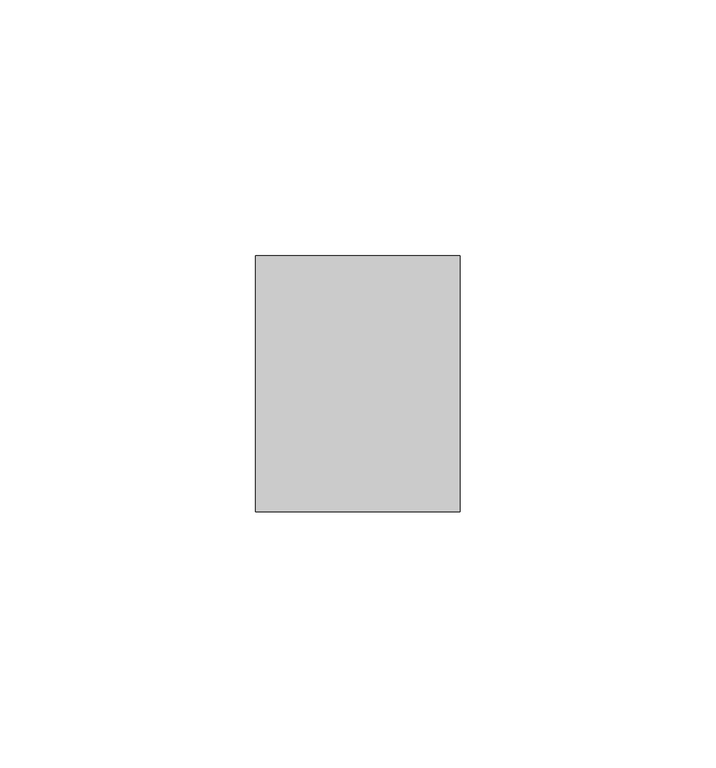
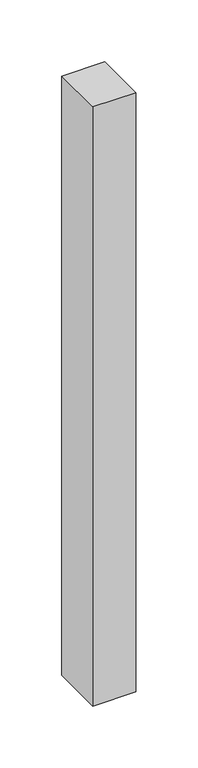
"""IFC4 building model written with IfcOpenShell, lengths in millimetres: member geometry, Прямоугольный импост : 40х50."""

import ifcopenshell
import ifcopenshell.guid

model = None  # the IFC model being written
_history = None  # IfcOwnerHistory: only IFC2X3 demands one
_inside = {}  # id of a spatial element -> (the spatial element, [elements in it])
_under = {}  # id of a project, library or spatial element -> (it, [spatial elements below it])
_declared = {}  # id of a project -> (the project, [libraries it declares])
_typed = {}  # id of a type object -> (the type object, [elements of that type])
_made_of = {}  # id of a material, layer set ... -> (it, [elements and type objects made of it])


def new_model(schema):
    """Start an empty IFC model of exactly this schema.

    Asked for "IFC4X3", IfcOpenShell would pick the latest addendum, in which some entities
    have other attributes; the version numbers below select the first issue.
    IFC2X3 requires an IfcOwnerHistory on every rooted entity: one is made here for all.
    """
    global model, _history
    if schema == "IFC4X3":
        model = ifcopenshell.file(schema_version=(4, 3, 0, 0))
    else:
        model = ifcopenshell.file(schema=schema)
    _inside.clear()
    _under.clear()
    _declared.clear()
    _typed.clear()
    _made_of.clear()
    _history = None
    if model.schema == "IFC2X3":
        org = make("IfcOrganization", Name="unknown")
        user = make(
            "IfcPersonAndOrganization",
            ThePerson=make("IfcPerson", FamilyName="unknown"),
            TheOrganization=org,
        )
        app = make(
            "IfcApplication",
            ApplicationDeveloper=org,
            Version="unknown",
            ApplicationFullName="unknown",
            ApplicationIdentifier="unknown",
        )
        _history = make(
            "IfcOwnerHistory",
            OwningUser=user,
            OwningApplication=app,
            ChangeAction="ADDED",
            CreationDate=0,
        )
    return model


def make(cls, **values):
    """One entity of the class cls with the attributes given. An attribute that is None is left unset."""
    return model.create_entity(
        cls, **{name: value for name, value in values.items() if value is not None}
    )


def rooted(cls, **values):
    """An entity with a GlobalId (a new one), such as an element, a storey or a relation."""
    return make(cls, GlobalId=ifcopenshell.guid.new(), OwnerHistory=_history, **values)


def si_unit(unit_type, name, prefix=None):
    """IfcSIUnit, for example si_unit("LENGTHUNIT", "METRE", prefix="MILLI")."""
    return make("IfcSIUnit", UnitType=unit_type, Prefix=prefix, Name=name)


def assignment(units):
    """IfcUnitAssignment: the units of a project."""
    return None if units is None else make("IfcUnitAssignment", Units=units)


def point(xyz):
    """IfcCartesianPoint."""
    return None if xyz is None else make("IfcCartesianPoint", Coordinates=xyz)


def direction(xyz):
    """IfcDirection."""
    return None if xyz is None else make("IfcDirection", DirectionRatios=xyz)


def frame(location, z_axis=None, x_axis=None):
    """IfcAxis2Placement3D, a coordinate frame: its origin and axes. An axis left out is left unset."""
    return make(
        "IfcAxis2Placement3D",
        Location=point(location),
        Axis=direction(z_axis),
        RefDirection=direction(x_axis),
    )


def origin():
    """The frame at (0, 0, 0) with its axes left unset."""
    return frame((0.0, 0.0, 0.0))


def place(relative_to, where):
    """IfcLocalPlacement: puts the frame where relative to a parent placement (None: the world)."""
    return make(
        "IfcLocalPlacement", PlacementRelTo=relative_to, RelativePlacement=where
    )


def context(
    kind, dimensions, precision=None, world=None, true_north=None, identifier=None
):
    """IfcGeometricRepresentationContext, for example the 3D "Model" context."""
    return make(
        "IfcGeometricRepresentationContext",
        ContextIdentifier=identifier,
        ContextType=kind,
        CoordinateSpaceDimension=dimensions,
        Precision=precision,
        WorldCoordinateSystem=world,
        TrueNorth=true_north,
    )


def project(units=None, contexts=None):
    """IfcProject with its units and contexts."""
    return rooted(
        "IfcProject",
        Name="project",
        RepresentationContexts=contexts,
        UnitsInContext=assignment(units),
    )


def spatial(cls, under=None, at=None, **own):
    """A site, building, storey or space (cls), placed at a placement, below another one or the project."""
    s = rooted(cls, ObjectPlacement=at, **own)
    if under is not None:
        _under.setdefault(under.id(), (under, []))[1].append(s)
    return s


def polyline(points):
    """IfcPolyline through the points."""
    return make("IfcPolyline", Points=[point(p) for p in points])


def outline(outer, holes=None, kind="AREA"):
    """IfcArbitraryClosedProfileDef: a profile drawn as a closed curve; with holes, ...WithVoids."""
    if holes is None:
        return make("IfcArbitraryClosedProfileDef", ProfileType=kind, OuterCurve=outer)
    return make(
        "IfcArbitraryProfileDefWithVoids",
        ProfileType=kind,
        OuterCurve=outer,
        InnerCurves=holes,
    )


def extrude(swept, where, along, depth):
    """IfcExtrudedAreaSolid: the profile swept, set in the frame where, extruded along a direction by depth."""
    return make(
        "IfcExtrudedAreaSolid",
        SweptArea=swept,
        Position=where,
        ExtrudedDirection=direction(along),
        Depth=depth,
    )


def shape(context_of_items, identifier, shape_type, items):
    """IfcShapeRepresentation: the items that make up one representation, for example the "Body"."""
    return make(
        "IfcShapeRepresentation",
        ContextOfItems=context_of_items,
        RepresentationIdentifier=identifier,
        RepresentationType=shape_type,
        Items=items,
    )


def source(mapping_origin, context_of_items, identifier, shape_type, items):
    """IfcRepresentationMap: a shape defined once, which mapped items show again and again."""
    return make(
        "IfcRepresentationMap",
        MappingOrigin=mapping_origin,
        MappedRepresentation=shape(context_of_items, identifier, shape_type, items),
    )


def transform(
    local_origin,
    x_axis=None,
    y_axis=None,
    z_axis=None,
    scale=None,
    scale2=None,
    scale3=None,
    uniform=True,
):
    """IfcCartesianTransformationOperator3D, or its non-uniform kind. x_axis, y_axis, z_axis: its Axis1, 2, 3."""
    if uniform:
        return make(
            "IfcCartesianTransformationOperator3D",
            Axis1=direction(x_axis),
            Axis2=direction(y_axis),
            LocalOrigin=point(local_origin),
            Scale=scale,
            Axis3=direction(z_axis),
        )
    return make(
        "IfcCartesianTransformationOperator3DnonUniform",
        Axis1=direction(x_axis),
        Axis2=direction(y_axis),
        LocalOrigin=point(local_origin),
        Scale=scale,
        Axis3=direction(z_axis),
        Scale2=scale2,
        Scale3=scale3,
    )


def mapped(mapping_source, mapping_target):
    """IfcMappedItem: shows the shape of a source again, moved by a transform."""
    return make(
        "IfcMappedItem", MappingSource=mapping_source, MappingTarget=mapping_target
    )


def made_of(thing, what):
    """Note that an element or type object is made of a material, layer set ...; save() writes the relation."""
    if what is not None:
        _made_of.setdefault(what.id(), (what, []))[1].append(thing)
    return thing


def element(
    cls,
    number,
    at=None,
    inside=None,
    cuts=None,
    type_object=None,
    material=None,
    context=None,
    identifier="Body",
    shape_type=None,
    held_by="IfcProductDefinitionShape",
    body=None,
    shapes=None,
    **own,
):
    """One element of the class cls, such as IfcWall. Its Tag is "e" and its number.

    at: its placement. inside: the storey or other place that contains it. cuts: it is an
    opening in that element (IfcRelVoidsElement). A single representation is given by context,
    identifier, shape_type and body (its items); several are given by shapes. held_by: the class
    of the entity that holds the representations. save() writes the other relations.
    """
    e = rooted(cls, Tag="e%d" % number, ObjectPlacement=at, **own)
    if body is not None:
        shapes = [shape(context, identifier, shape_type, body)]
    if shapes is not None:
        e.Representation = make(held_by, Representations=shapes)
    if inside is not None:
        _inside.setdefault(inside.id(), (inside, []))[1].append(e)
    if cuts is not None:
        rooted(
            "IfcRelVoidsElement", RelatingBuildingElement=cuts, RelatedOpeningElement=e
        )
    if type_object is not None:
        _typed.setdefault(type_object.id(), (type_object, []))[1].append(e)
    return made_of(e, material)


def aggregate(whole, parts):
    """IfcRelAggregates: a whole, such as a stair, and the parts it consists of."""
    return rooted("IfcRelAggregates", RelatingObject=whole, RelatedObjects=parts)


def save(model, path):
    """Write the relations noted so far, then the file.

    IfcRelAggregates (storeys below a building ...), IfcRelContainedInSpatialStructure (elements
    in a storey), IfcRelDefinesByType, IfcRelAssociatesMaterial and IfcRelDeclares: one each for
    every whole, place, type object, material and project.
    """
    for whole, parts in _under.values():
        aggregate(whole, parts)
    for where, things in _inside.values():
        rooted(
            "IfcRelContainedInSpatialStructure",
            RelatedElements=things,
            RelatingStructure=where,
        )
    for kind, things in _typed.values():
        rooted("IfcRelDefinesByType", RelatedObjects=things, RelatingType=kind)
    for what, things in _made_of.values():
        rooted("IfcRelAssociatesMaterial", RelatedObjects=things, RelatingMaterial=what)
    for by, libraries in _declared.values():
        rooted("IfcRelDeclares", RelatingContext=by, RelatedDefinitions=libraries)
    model.write(path)


def member_8c236b06(model_context):
    return source(origin(), model_context, "Body", "SweptSolid", [
        extrude(outline(polyline([(20.0, 0.0), (20.0, -50.0), (-20.0, -50.0), (-20.0, 0.0), (20.0, 0.0)])), frame((0.0, 0.0, -590.0), z_axis=(0.0, 0.0, 1.0), x_axis=(1.0, 0.0, 0.0)), (0.0, 0.0, 1.0), 590.0),
    ])


if __name__ == "__main__":
    model = new_model("IFC4")
    model_context = context("Model", 3, world=origin())
    ifc_project = project(units=[si_unit("LENGTHUNIT", "METRE", prefix="MILLI")], contexts=[model_context])
    site = spatial("IfcSite", under=ifc_project)
    building = spatial("IfcBuilding", under=site)
    placement = place(None, origin())
    member_shape = member_8c236b06(model_context)
    element("IfcMember", 1, ObjectType="Прямоугольный импост : 40х50", at=placement, inside=building, context=model_context, shape_type="MappedRepresentation", body=[
        mapped(member_shape, transform((0.0, 0.0, 0.0), x_axis=(1.0, 0.0, 0.0), y_axis=(0.0, 1.0, 0.0), z_axis=(0.0, 0.0, 1.0))),
    ])
    save(model, "model.ifc")
